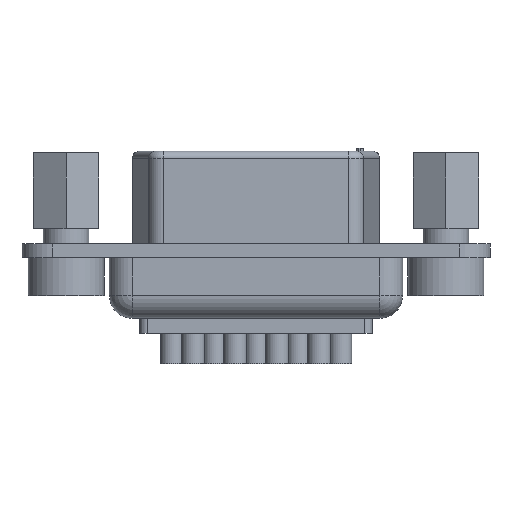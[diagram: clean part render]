
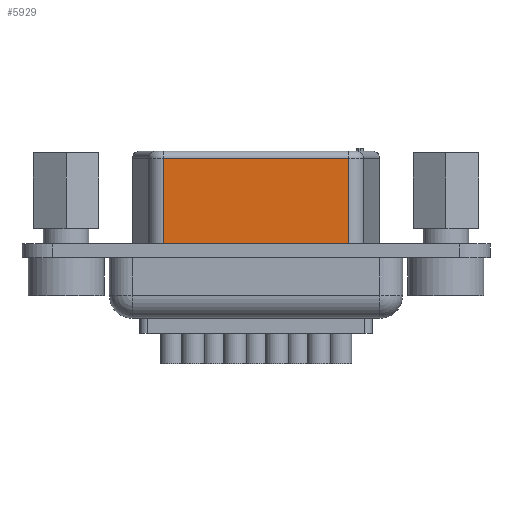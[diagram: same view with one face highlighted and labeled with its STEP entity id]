
A CAD part, front view. The second image highlights one B-rep face of the part: STEP entity #5929.
In plain terms, the highlighted planar face has unit normal (0, -1, 0).
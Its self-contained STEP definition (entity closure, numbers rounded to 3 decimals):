
#2825 = CARTESIAN_POINT ( 'NONE',  ( -6.092, -4., 0. ) ) ;
#2826 = CARTESIAN_POINT ( 'NONE',  ( 6.092, -4., 0. ) ) ;
#2896 = DIRECTION ( 'NONE',  ( -1., 0., 0. ) ) ;
#2897 = VECTOR ( 'NONE', #2896, 1000. ) ;
#2898 = CARTESIAN_POINT ( 'NONE',  ( -6.092, -4., 5.6 ) ) ;
#2899 = LINE ( 'NONE', #2898, #2897 ) ;
#2900 = CARTESIAN_POINT ( 'NONE',  ( 6.092, -4., 5.6 ) ) ;
#2936 = DIRECTION ( 'NONE',  ( 1., 0., 0. ) ) ;
#2937 = VECTOR ( 'NONE', #2936, 1000. ) ;
#2938 = CARTESIAN_POINT ( 'NONE',  ( -6.092, -4., 0. ) ) ;
#2939 = LINE ( 'NONE', #2938, #2937 ) ;
#3054 = FACE_OUTER_BOUND ( 'NONE', #5930, .T. ) ;
#3061 = CARTESIAN_POINT ( 'NONE',  ( -6.092, -4., 5.6 ) ) ;
#3062 = DIRECTION ( 'NONE',  ( 0., 0., -1. ) ) ;
#3063 = VECTOR ( 'NONE', #3062, 1000. ) ;
#3064 = CARTESIAN_POINT ( 'NONE',  ( -6.092, -4., 6.1 ) ) ;
#3065 = LINE ( 'NONE', #3064, #3063 ) ;
#3091 = DIRECTION ( 'NONE',  ( 0., 0., -1. ) ) ;
#3092 = VECTOR ( 'NONE', #3091, 1000. ) ;
#3093 = CARTESIAN_POINT ( 'NONE',  ( 6.092, -4., 6.1 ) ) ;
#3094 = LINE ( 'NONE', #3093, #3092 ) ;
#3096 = DIRECTION ( 'NONE',  ( 0., 0., 1. ) ) ;
#3097 = DIRECTION ( 'NONE',  ( 0., 1., 0. ) ) ;
#3098 = CARTESIAN_POINT ( 'NONE',  ( -6.092, -4., 6.1 ) ) ;
#3099 = AXIS2_PLACEMENT_3D ( 'NONE', #3098, #3097, #3096 ) ;
#3100 = PLANE ( 'NONE',  #3099 ) ;
#5821 = VERTEX_POINT ( 'NONE', #2826 ) ;
#5823 = VERTEX_POINT ( 'NONE', #2825 ) ;
#5849 = VERTEX_POINT ( 'NONE', #2900 ) ;
#5850 = ORIENTED_EDGE ( 'NONE', *, *, #5851, .T. ) ;
#5851 = EDGE_CURVE ( 'NONE', #5849, #5924, #2899, .T. ) ;
#5884 = EDGE_CURVE ( 'NONE', #5823, #5821, #2939, .T. ) ;
#5910 = ORIENTED_EDGE ( 'NONE', *, *, #5923, .T. ) ;
#5911 = ORIENTED_EDGE ( 'NONE', *, *, #5884, .T. ) ;
#5923 = EDGE_CURVE ( 'NONE', #5924, #5823, #3065, .T. ) ;
#5924 = VERTEX_POINT ( 'NONE', #3061 ) ;
#5929 = ADVANCED_FACE ( 'NONE', ( #3054 ), #3100, .F. ) ;
#5930 = EDGE_LOOP ( 'NONE', ( #5931, #5850, #5910, #5911 ) ) ;
#5931 = ORIENTED_EDGE ( 'NONE', *, *, #5932, .F. ) ;
#5932 = EDGE_CURVE ( 'NONE', #5849, #5821, #3094, .T. ) ;
